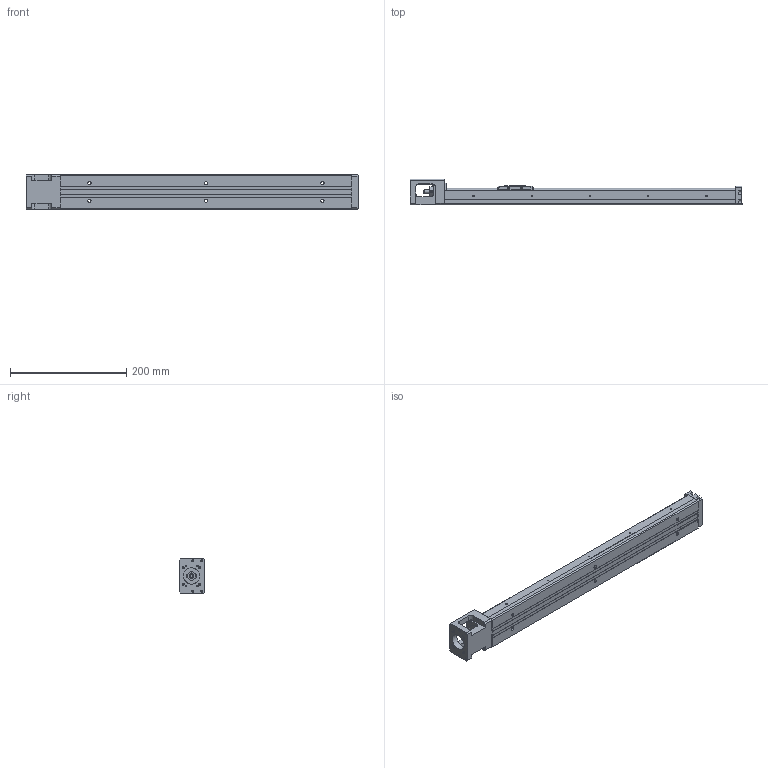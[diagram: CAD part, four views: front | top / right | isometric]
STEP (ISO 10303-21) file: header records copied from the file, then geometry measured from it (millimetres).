
FILE_DESCRIPTION(/* description */ (''),/* implementation_level */ '2;1');
FILE_NAME(/* name */ 'KP33S-500C02-1.stp',/* time_stamp */ '2020-07-01T11:59:20+08:00',/* author */ (''),/* organization */ (''),/* preprocessor_version */ 'ST-DEVELOPER v14',/* originating_system */ 'SIEMENS PLM Software NX 8.0',/* authorisation */ '');
FILE_SCHEMA (('AUTOMOTIVE_DESIGN { 1 0 10303 214 3 1 1 1 }'));
Length unit declared in the file: millimetre
Products named in the file (1): model1
Bounding box: 570 x 44.45 x 60 mm (x, y, z)
Volume: 592319.2 mm3; surface area: 166535.6 mm2
Topology: 5 solids, 14 shells, 615 faces, 1563 edges, 1028 vertices
Faces by surface type: plane 362, cylinder 172, bspline 31, extrusion 21, cone 20, torus 7, sphere 2
Full cylindrical faces by diameter (mm): 1.6 x3, 1.65 x4, 2.15 x5, 2.42 x4, 2.45 x2, 2.5 x12, 3.2 x4, 3.3 x4, 3.4 x4, 3.5 x10, 3.969 x1, 4 x4, 4.001 x1, 4.135 x2, 5.5 x6, 6 x5, 7.6 x1, 8 x5, 9.5 x6, 10.72 x3, 11.8 x2, 12 x6, 12.8 x1, 13 x2, 14 x1, 16 x4, 21.5 x1, 28 x1
Entity records: 33423 total; most frequent: CARTESIAN_POINT 15137, DIRECTION 2808, ORIENTED_EDGE 2728, EDGE_CURVE 1364, AXIS2_PLACEMENT_3D 989, VERTEX_POINT 962, EDGE_LOOP 858, VECTOR 830
